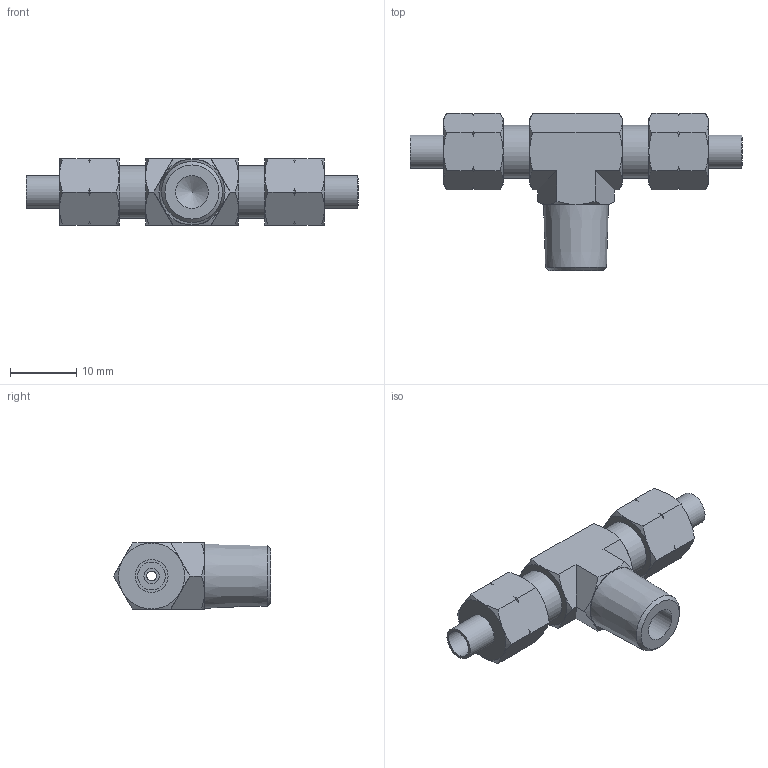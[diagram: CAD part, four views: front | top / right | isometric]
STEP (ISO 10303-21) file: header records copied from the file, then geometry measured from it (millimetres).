
FILE_DESCRIPTION(/* description */ (''),/* implementation_level */ '2;1');
FILE_NAME(/* name */ 'D:\CDC pneumatics\inventor\CT\CT 4x2.5-01.stp',/* time_stamp */ '2015-08-24T10:25:59+09:00',/* author */ ('DIAMOND'),/* organization */ (''),/* preprocessor_version */ 'ST-DEVELOPER v15.6',/* originating_system */ 'Autodesk Inventor 2015',/* authorisation */ '');
FILE_SCHEMA (('AUTOMOTIVE_DESIGN { 1 0 10303 214 3 1 1 }'));
Length unit declared in the file: millimetre
Products named in the file (1): CT 4x2.5-01
Bounding box: 50.21 x 23.77 x 10 mm (x, y, z)
Volume: 3602.4 mm3; surface area: 3116.7 mm2
Topology: 1 solids, 1 shells, 118 faces, 276 edges, 169 vertices
Faces by surface type: cone 69, plane 38, cylinder 11
Full cylindrical faces by diameter (mm): 1.5 x2, 2.3 x2, 4.2 x2, 5 x3, 8 x2
Entity records: 3175 total; most frequent: CARTESIAN_POINT 877, ORIENTED_EDGE 514, DIRECTION 437, EDGE_CURVE 257, AXIS2_PLACEMENT_3D 197, VERTEX_POINT 164, EDGE_LOOP 145, FACE_OUTER_BOUND 118
